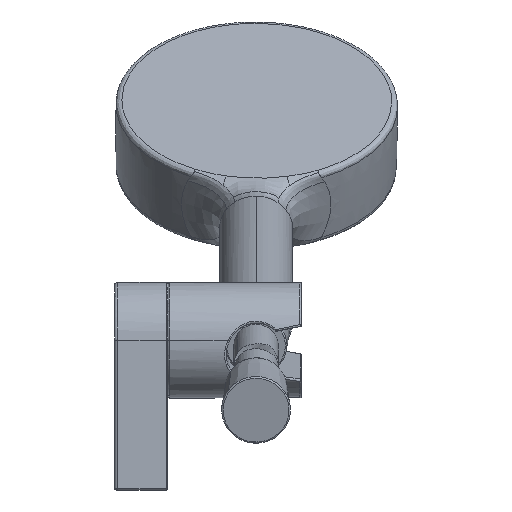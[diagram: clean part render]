
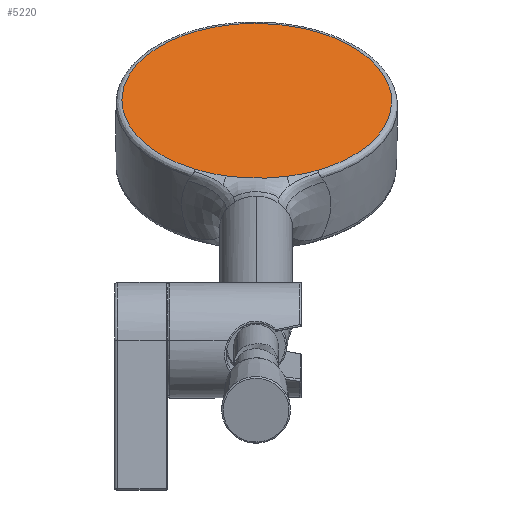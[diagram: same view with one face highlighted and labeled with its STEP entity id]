
A CAD part, front view. The second image highlights one B-rep face of the part: STEP entity #5220.
In plain terms, the highlighted planar face has unit normal (0.008, -0.574, 0.819).
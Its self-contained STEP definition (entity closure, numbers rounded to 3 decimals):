
#28 = B_SPLINE_CURVE_WITH_KNOTS ( 'NONE', 3,
 ( #2073, #6938, #10253, #438 ),
 .UNSPECIFIED., .F., .F.,
 ( 4, 4 ),
 ( 0., 1. ),
 .UNSPECIFIED. ) ;
#363 = VERTEX_POINT ( 'NONE', #6039 ) ;
#388 = VERTEX_POINT ( 'NONE', #8546 ) ;
#438 = CARTESIAN_POINT ( 'NONE',  ( 37.588, 149.66, 105.901 ) ) ;
#630 = CARTESIAN_POINT ( 'NONE',  ( 27.023, 152.809, 108.205 ) ) ;
#795 = EDGE_CURVE ( 'NONE', #363, #5772, #5469, .T. ) ;
#886 = CARTESIAN_POINT ( 'NONE',  ( 2.465, 190.777, 135.021 ) ) ;
#899 = ORIENTED_EDGE ( 'NONE', *, *, #6550, .F. ) ;
#1143 = EDGE_CURVE ( 'NONE', #8784, #388, #6961, .T. ) ;
#1448 = CARTESIAN_POINT ( 'NONE',  ( 52.942, 148.975, 105.278 ) ) ;
#1681 = CARTESIAN_POINT ( 'NONE',  ( 37.588, 149.66, 105.901 ) ) ;
#1891 = AXIS2_PLACEMENT_3D ( 'NONE', #5848, #2751, #5995 ) ;
#1957 = CARTESIAN_POINT ( 'NONE',  ( 72.832, 154.671, 109.08 ) ) ;
#2073 = CARTESIAN_POINT ( 'NONE',  ( 27.023, 152.809, 108.205 ) ) ;
#2222 = CARTESIAN_POINT ( 'NONE',  ( 65.93, 221.362, 155.844 ) ) ;
#2254 = CARTESIAN_POINT ( 'NONE',  ( 47.465, 148.724, 105.154 ) ) ;
#2283 = CARTESIAN_POINT ( 'NONE',  ( 46.399, 148.738, 105.174 ) ) ;
#2306 = ORIENTED_EDGE ( 'NONE', *, *, #9045, .T. ) ;
#2382 = CARTESIAN_POINT ( 'NONE',  ( 52.875, 148.969, 105.274 ) ) ;
#2688 = B_SPLINE_CURVE_WITH_KNOTS ( 'NONE', 3,
 ( #630, #3128, #6512, #4057, #8858, #5617 ),
 .UNSPECIFIED., .F., .F.,
 ( 4, 1, 1, 4 ),
 ( 0.076, 0.125, 0.188, 0.25 ),
 .UNSPECIFIED. ) ;
#2751 = DIRECTION ( 'NONE',  ( -0.008, 0.574, -0.819 ) ) ;
#3043 = CARTESIAN_POINT ( 'NONE',  ( 93.459, 190.969, 134.304 ) ) ;
#3115 = CARTESIAN_POINT ( 'NONE',  ( 54.027, 223.278, 157.297 ) ) ;
#3119 = VERTEX_POINT ( 'NONE', #3730 ) ;
#3128 = CARTESIAN_POINT ( 'NONE',  ( 22.845, 154.565, 109.474 ) ) ;
#3168 = CARTESIAN_POINT ( 'NONE',  ( 52.956, 148.976, 105.279 ) ) ;
#3381 = CARTESIAN_POINT ( 'NONE',  ( 42.118, 223.253, 157.39 ) ) ;
#3520 = CARTESIAN_POINT ( 'NONE',  ( 65.291, 151.478, 106.915 ) ) ;
#3625 = CARTESIAN_POINT ( 'NONE',  ( 48.073, 223.265, 157.343 ) ) ;
#3730 = CARTESIAN_POINT ( 'NONE',  ( 2.449, 185.899, 131.606 ) ) ;
#4001 = CARTESIAN_POINT ( 'NONE',  ( 49.95, 148.759, 105.155 ) ) ;
#4057 = CARTESIAN_POINT ( 'NONE',  ( 4.768, 171.27, 121.34 ) ) ;
#4101 = CARTESIAN_POINT ( 'NONE',  ( 15.029, 212.966, 150.441 ) ) ;
#4212 = CARTESIAN_POINT ( 'NONE',  ( 48.073, 223.265, 157.343 ) ) ;
#4260 = ORIENTED_EDGE ( 'NONE', *, *, #4907, .T. ) ;
#4410 = VERTEX_POINT ( 'NONE', #1681 ) ;
#4651 = ORIENTED_EDGE ( 'NONE', *, *, #9693, .F. ) ;
#4721 = CARTESIAN_POINT ( 'NONE',  ( 47.768, 148.724, 105.151 ) ) ;
#4756 = CARTESIAN_POINT ( 'NONE',  ( 52.922, 148.973, 105.277 ) ) ;
#4821 = CARTESIAN_POINT ( 'NONE',  ( 52.965, 148.977, 105.279 ) ) ;
#4907 = EDGE_CURVE ( 'NONE', #7035, #4410, #28, .T. ) ;
#5220 = ADVANCED_FACE ( 'NONE', ( #8081 ), #7557, .F. ) ;
#5469 = B_SPLINE_CURVE_WITH_KNOTS ( 'NONE', 3,
 ( #10198, #6720, #3520, #10468 ),
 .UNSPECIFIED., .F., .F.,
 ( 4, 4 ),
 ( 0., 1. ),
 .UNSPECIFIED. ) ;
#5573 = CARTESIAN_POINT ( 'NONE',  ( 48.668, 148.726, 105.143 ) ) ;
#5617 = CARTESIAN_POINT ( 'NONE',  ( 2.449, 185.899, 131.606 ) ) ;
#5772 = VERTEX_POINT ( 'NONE', #10236 ) ;
#5848 = CARTESIAN_POINT ( 'NONE',  ( 47.426, 33.361, 24.374 ) ) ;
#5995 = DIRECTION ( 'NONE',  ( 0.003, 0.819, 0.574 ) ) ;
#6001 = CARTESIAN_POINT ( 'NONE',  ( 91.024, 171.452, 120.661 ) ) ;
#6039 = CARTESIAN_POINT ( 'NONE',  ( 58.056, 149.703, 105.74 ) ) ;
#6141 = CARTESIAN_POINT ( 'NONE',  ( 68.642, 152.897, 107.877 ) ) ;
#6359 = CARTESIAN_POINT ( 'NONE',  ( 52.59, 148.942, 105.259 ) ) ;
#6366 = CARTESIAN_POINT ( 'NONE',  ( 48.073, 223.265, 157.343 ) ) ;
#6392 = CARTESIAN_POINT ( 'NONE',  ( 44.959, 148.788, 105.222 ) ) ;
#6424 = CARTESIAN_POINT ( 'NONE',  ( 47.642, 148.724, 105.152 ) ) ;
#6475 = B_SPLINE_CURVE_WITH_KNOTS ( 'NONE', 3,
 ( #10594, #7275, #9643, #6392, #2283, #9707, #2254, #6424, #8871, #4721, #9679, #5573, #4001, #8064, #10466, #6359, #10560, #2382, #4756, #1448, #3168, #4821, #8903, #10528, #10492 ),
 .UNSPECIFIED., .F., .F.,
 ( 4, 1, 1, 1, 1, 1, 1, 2, 2, 1, 1, 1, 1, 1, 1, 1, 2, 2, 4 ),
 ( 0., 0.25, 0.375, 0.438, 0.469, 0.484, 0.492, 0.496, 0.5, 0.625, 0.688, 0.719, 0.734, 0.742, 0.746, 0.748, 0.749, 0.75, 1. ),
 .UNSPECIFIED. ) ;
#6512 = CARTESIAN_POINT ( 'NONE',  ( 14.14, 159.751, 113.187 ) ) ;
#6550 = EDGE_CURVE ( 'NONE', #388, #5772, #10392, .T. ) ;
#6601 = CARTESIAN_POINT ( 'NONE',  ( 2.449, 185.899, 131.606 ) ) ;
#6720 = CARTESIAN_POINT ( 'NONE',  ( 61.762, 150.413, 106.203 ) ) ;
#6938 = CARTESIAN_POINT ( 'NONE',  ( 30.374, 151.4, 107.187 ) ) ;
#6961 = B_SPLINE_CURVE_WITH_KNOTS ( 'NONE', 3,
 ( #6366, #3115, #2222, #10398, #8740, #3043, #7385 ),
 .UNSPECIFIED., .F., .F.,
 ( 4, 1, 1, 1, 4 ),
 ( 0.5, 0.563, 0.625, 0.687, 0.75 ),
 .UNSPECIFIED. ) ;
#7035 = VERTEX_POINT ( 'NONE', #7136 ) ;
#7132 = EDGE_CURVE ( 'NONE', #7035, #3119, #2688, .T. ) ;
#7136 = CARTESIAN_POINT ( 'NONE',  ( 27.023, 152.809, 108.205 ) ) ;
#7275 = CARTESIAN_POINT ( 'NONE',  ( 39.388, 149.345, 105.664 ) ) ;
#7318 = ORIENTED_EDGE ( 'NONE', *, *, #1143, .F. ) ;
#7385 = CARTESIAN_POINT ( 'NONE',  ( 93.443, 186.091, 130.889 ) ) ;
#7557 = PLANE ( 'NONE',  #1891 ) ;
#7924 = EDGE_LOOP ( 'NONE', ( #4651, #7976, #4260, #2306, #8063, #899, #7318 ) ) ;
#7976 = ORIENTED_EDGE ( 'NONE', *, *, #7132, .F. ) ;
#8063 = ORIENTED_EDGE ( 'NONE', *, *, #795, .T. ) ;
#8064 = CARTESIAN_POINT ( 'NONE',  ( 51.456, 148.85, 105.205 ) ) ;
#8081 = FACE_OUTER_BOUND ( 'NONE', #7924, .T. ) ;
#8269 = CARTESIAN_POINT ( 'NONE',  ( 30.202, 221.287, 156.125 ) ) ;
#8468 = CARTESIAN_POINT ( 'NONE',  ( 93.426, 181.213, 127.473 ) ) ;
#8546 = CARTESIAN_POINT ( 'NONE',  ( 93.443, 186.091, 130.889 ) ) ;
#8732 = B_SPLINE_CURVE_WITH_KNOTS ( 'NONE', 3,
 ( #6601, #886, #10626, #4101, #8269, #3381, #4212 ),
 .UNSPECIFIED., .F., .F.,
 ( 4, 1, 1, 1, 4 ),
 ( 0.25, 0.313, 0.375, 0.437, 0.5 ),
 .UNSPECIFIED. ) ;
#8740 = CARTESIAN_POINT ( 'NONE',  ( 91.124, 200.72, 141.154 ) ) ;
#8784 = VERTEX_POINT ( 'NONE', #3625 ) ;
#8858 = CARTESIAN_POINT ( 'NONE',  ( 2.432, 181.021, 128.19 ) ) ;
#8871 = CARTESIAN_POINT ( 'NONE',  ( 47.717, 148.724, 105.151 ) ) ;
#8903 = CARTESIAN_POINT ( 'NONE',  ( 54.236, 149.098, 105.352 ) ) ;
#9045 = EDGE_CURVE ( 'NONE', #4410, #363, #6475, .T. ) ;
#9458 = CARTESIAN_POINT ( 'NONE',  ( 93.443, 186.091, 130.889 ) ) ;
#9643 = CARTESIAN_POINT ( 'NONE',  ( 42.017, 148.991, 105.392 ) ) ;
#9679 = CARTESIAN_POINT ( 'NONE',  ( 47.792, 148.724, 105.15 ) ) ;
#9693 = EDGE_CURVE ( 'NONE', #3119, #8784, #8732, .T. ) ;
#9707 = CARTESIAN_POINT ( 'NONE',  ( 47.111, 148.727, 105.159 ) ) ;
#10101 = CARTESIAN_POINT ( 'NONE',  ( 81.573, 159.893, 112.655 ) ) ;
#10198 = CARTESIAN_POINT ( 'NONE',  ( 58.056, 149.703, 105.74 ) ) ;
#10236 = CARTESIAN_POINT ( 'NONE',  ( 68.642, 152.897, 107.877 ) ) ;
#10253 = CARTESIAN_POINT ( 'NONE',  ( 33.896, 150.351, 106.42 ) ) ;
#10392 = B_SPLINE_CURVE_WITH_KNOTS ( 'NONE', 3,
 ( #9458, #8468, #6001, #10101, #1957, #6141 ),
 .UNSPECIFIED., .F., .F.,
 ( 4, 1, 1, 4 ),
 ( 0.75, 0.812, 0.875, 0.924 ),
 .UNSPECIFIED. ) ;
#10398 = CARTESIAN_POINT ( 'NONE',  ( 81.047, 213.105, 149.92 ) ) ;
#10466 = CARTESIAN_POINT ( 'NONE',  ( 52.212, 148.91, 105.239 ) ) ;
#10468 = CARTESIAN_POINT ( 'NONE',  ( 68.642, 152.897, 107.877 ) ) ;
#10492 = CARTESIAN_POINT ( 'NONE',  ( 58.056, 149.703, 105.74 ) ) ;
#10528 = CARTESIAN_POINT ( 'NONE',  ( 55.932, 149.34, 105.506 ) ) ;
#10560 = CARTESIAN_POINT ( 'NONE',  ( 52.78, 148.96, 105.269 ) ) ;
#10594 = CARTESIAN_POINT ( 'NONE',  ( 37.588, 149.66, 105.901 ) ) ;
#10626 = CARTESIAN_POINT ( 'NONE',  ( 4.867, 200.538, 141.834 ) ) ;
